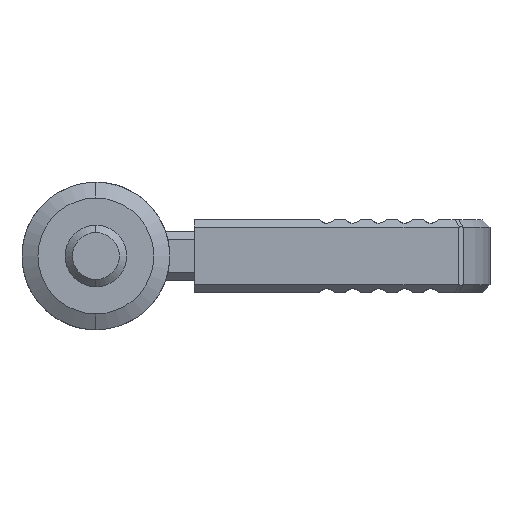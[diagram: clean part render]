
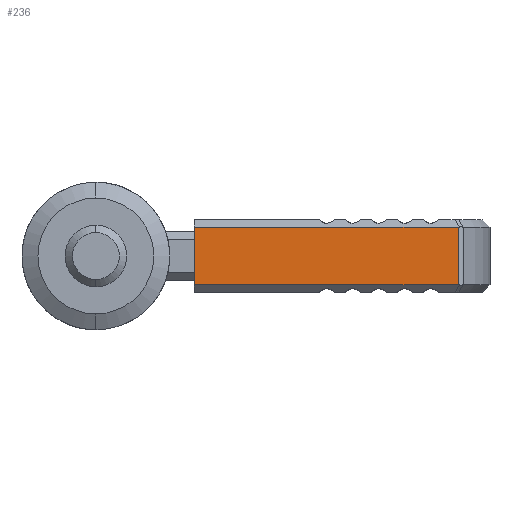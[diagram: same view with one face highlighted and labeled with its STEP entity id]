
A CAD part, front view. The second image highlights one B-rep face of the part: STEP entity #236.
In plain terms, the highlighted planar face has unit normal (0, -1, 0).
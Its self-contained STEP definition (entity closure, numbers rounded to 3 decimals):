
#205 = EDGE_CURVE ( 'NONE', #5970, #209, #827, .T. ) ;
#209 = VERTEX_POINT ( 'NONE', #882 ) ;
#212 = ORIENTED_EDGE ( 'NONE', *, *, #205, .T. ) ;
#218 = EDGE_LOOP ( 'NONE', ( #212, #294, #277, #282 ) ) ;
#236 = ADVANCED_FACE ( 'NONE', ( #898 ), #897, .F. ) ;
#275 = EDGE_CURVE ( 'NONE', #278, #368, #962, .T. ) ;
#276 = EDGE_CURVE ( 'NONE', #209, #278, #957, .T. ) ;
#277 = ORIENTED_EDGE ( 'NONE', *, *, #275, .T. ) ;
#278 = VERTEX_POINT ( 'NONE', #1017 ) ;
#282 = ORIENTED_EDGE ( 'NONE', *, *, #369, .F. ) ;
#294 = ORIENTED_EDGE ( 'NONE', *, *, #276, .T. ) ;
#368 = VERTEX_POINT ( 'NONE', #1164 ) ;
#369 = EDGE_CURVE ( 'NONE', #5970, #368, #1163, .T. ) ;
#825 = VECTOR ( 'NONE', #887, 1000. ) ;
#826 = CARTESIAN_POINT ( 'NONE',  ( 2.349, -7., 0. ) ) ;
#827 = LINE ( 'NONE', #826, #825 ) ;
#882 = CARTESIAN_POINT ( 'NONE',  ( 2.349, -7., 21.414 ) ) ;
#887 = DIRECTION ( 'NONE',  ( 0., 0., 1. ) ) ;
#892 = DIRECTION ( 'NONE',  ( 0., 0., 1. ) ) ;
#893 = DIRECTION ( 'NONE',  ( 0., 1., 0. ) ) ;
#894 = CARTESIAN_POINT ( 'NONE',  ( 2.95, -7., 0. ) ) ;
#895 = AXIS2_PLACEMENT_3D ( 'NONE', #894, #893, #892 ) ;
#897 = PLANE ( 'NONE',  #895 ) ;
#898 = FACE_OUTER_BOUND ( 'NONE', #218, .T. ) ;
#954 = DIRECTION ( 'NONE',  ( -1., 0., 0. ) ) ;
#955 = VECTOR ( 'NONE', #954, 1000. ) ;
#956 = CARTESIAN_POINT ( 'NONE',  ( 2.95, -7., 21.414 ) ) ;
#957 = LINE ( 'NONE', #956, #955 ) ;
#958 = DIRECTION ( 'NONE',  ( 0., 0., -1. ) ) ;
#959 = VECTOR ( 'NONE', #958, 1000. ) ;
#961 = CARTESIAN_POINT ( 'NONE',  ( -2.349, -7., 0. ) ) ;
#962 = LINE ( 'NONE', #961, #959 ) ;
#1017 = CARTESIAN_POINT ( 'NONE',  ( -2.349, -7., 21.414 ) ) ;
#1160 = DIRECTION ( 'NONE',  ( -1., 0., 0. ) ) ;
#1161 = VECTOR ( 'NONE', #1160, 1000. ) ;
#1162 = CARTESIAN_POINT ( 'NONE',  ( 2.95, -7., 0. ) ) ;
#1163 = LINE ( 'NONE', #1162, #1161 ) ;
#1164 = CARTESIAN_POINT ( 'NONE',  ( -2.349, -7., 0. ) ) ;
#3855 = CARTESIAN_POINT ( 'NONE',  ( 2.349, -7., 0. ) ) ;
#5970 = VERTEX_POINT ( 'NONE', #3855 ) ;
